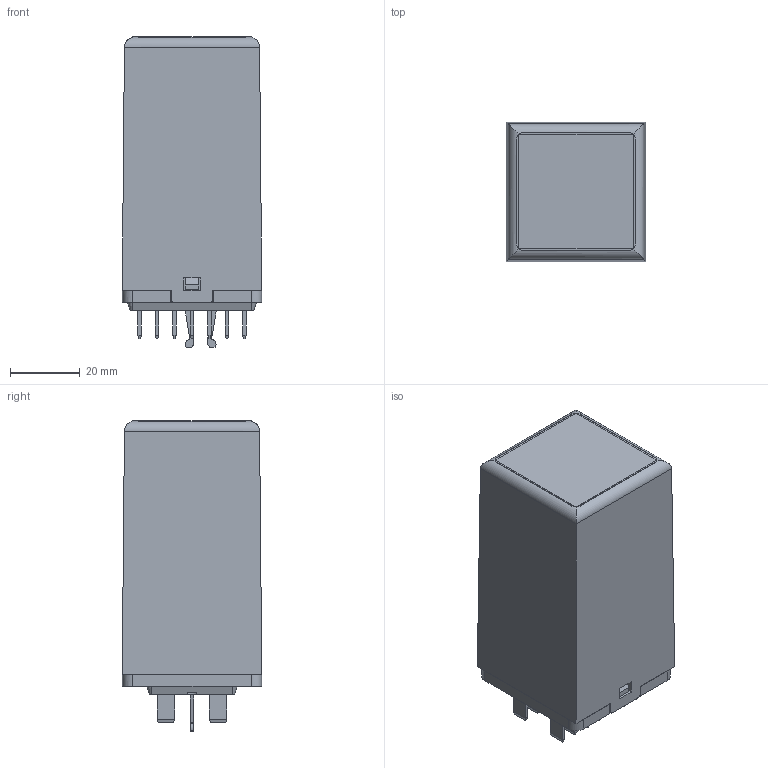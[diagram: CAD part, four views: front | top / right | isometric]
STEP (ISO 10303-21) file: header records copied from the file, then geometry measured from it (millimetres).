
FILE_DESCRIPTION((''),'2;1');
FILE_NAME('I:\TI\Bibliotheek\Inventor\Relais\WDDE\WDDE-U200.stp','2011-03-09T07:22:32',('oey'),(''),'Autodesk Inventor 2011','Autodesk Inventor 2011','');
FILE_SCHEMA(('AUTOMOTIVE_DESIGN { 1 0 10303 214 1 1 1 1 }'));
Length unit declared in the file: millimetre
Products named in the file (1): WDDE-U200
Bounding box: 40 x 40.06 x 88.95 mm (x, y, z)
Volume: 29504.2 mm3; surface area: 35751.8 mm2
Topology: 1 solids, 1 shells, 1483 faces, 4250 edges, 2708 vertices
Faces by surface type: plane 897, cylinder 407, bspline 116, sphere 56, cone 6, torus 1
Full cylindrical faces by diameter (mm): 1.6 x14, 1.7 x1, 2.7 x4
Entity records: 50704 total; most frequent: CARTESIAN_POINT 10297, ORIENTED_EDGE 8438, DIRECTION 7719, EDGE_CURVE 4219, VECTOR 2967, LINE 2967, VERTEX_POINT 2690, AXIS2_PLACEMENT_3D 2376
